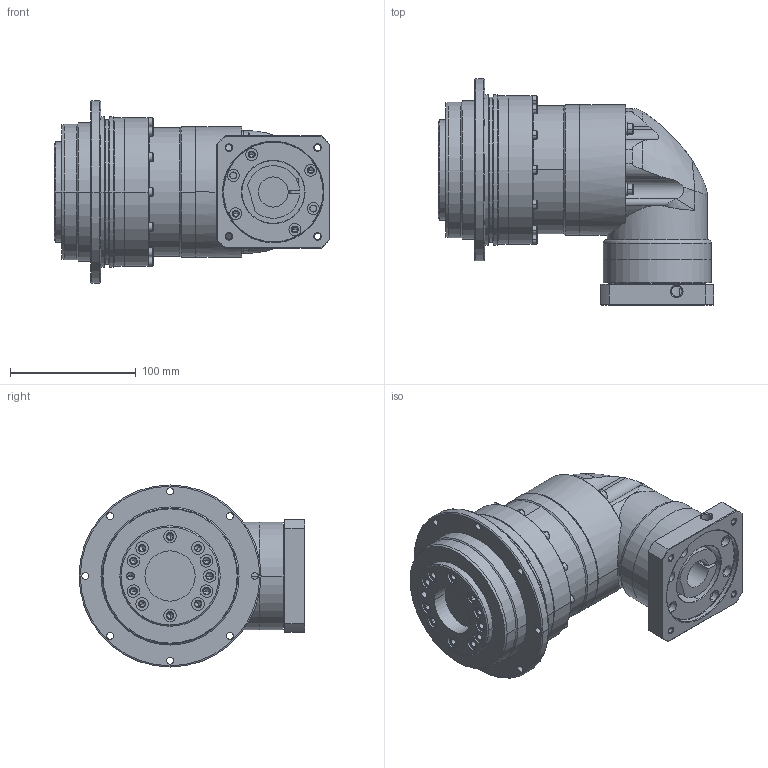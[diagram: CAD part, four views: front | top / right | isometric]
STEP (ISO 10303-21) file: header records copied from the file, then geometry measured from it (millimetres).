
FILE_DESCRIPTION((''),'2;1');
FILE_NAME('ADR1102-P0403300603_ASM','2008-09-01T',('d00080'),(''),'PRO/ENGINEER BY PARAMETRIC TECHNOLOGY CORPORATION, 2006170','PRO/ENGINEER BY PARAMETRIC TECHNOLOGY CORPORATION, 2006170','');
FILE_SCHEMA(('CONFIG_CONTROL_DESIGN'));
Length unit declared in the file: millimetre
Products named in the file (11): AD110-2; PH240001; 220120512; AH_RING_GEAR-SET2-4_ASM; P1002300001; 233100003; 220100610; HOUSING-SET-3_ASM; P1305300001; P0403300603; ADR1102-P0403300603_ASM
Assembly tree (27 placements, depth 3):
  ADR1102-P0403300603_ASM
    AD110-2
    AH_RING_GEAR-SET2-4_ASM
      PH240001
      220120512  x12
    HOUSING-SET-3_ASM
      P1002300001
      233100003  x4
      220100610  x4
    P1305300001
    P0403300603
Bounding box: 219.5 x 180 x 145 mm (x, y, z)
Volume: 1972889.6 mm3; surface area: 228354.7 mm2
Topology: 25 solids, 69 shells, 1213 faces, 2744 edges, 1650 vertices
Faces by surface type: cylinder 530, plane 378, cone 228, torus 61, bspline 16
Entity records: 22782 total; most frequent: CARTESIAN_POINT 4744, DIRECTION 4173, ORIENTED_EDGE 3228, AXIS2_PLACEMENT_3D 1763, EDGE_CURVE 1702, VERTEX_POINT 1094, CIRCLE 962, EDGE_LOOP 948
